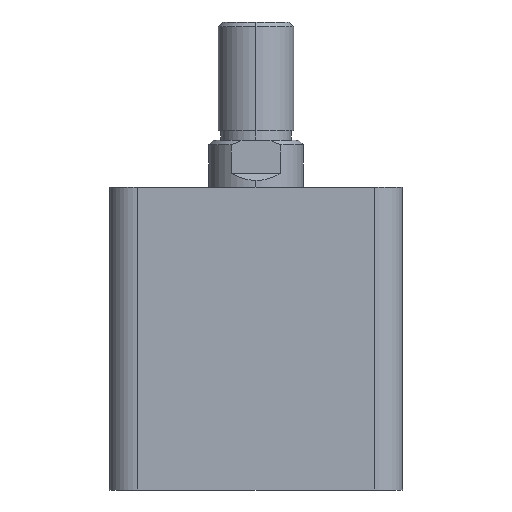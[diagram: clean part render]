
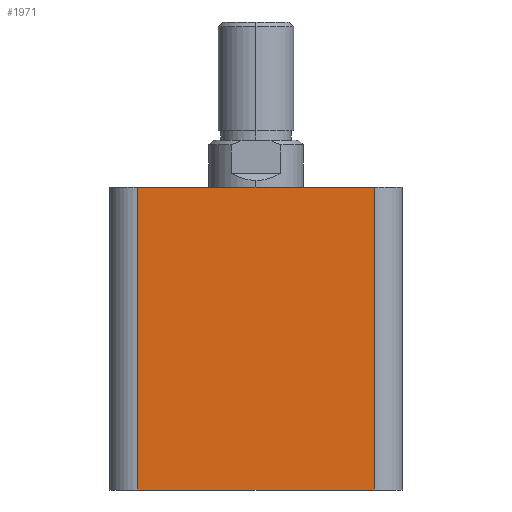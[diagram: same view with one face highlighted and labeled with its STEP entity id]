
A CAD part, left-side view. The second image highlights one B-rep face of the part: STEP entity #1971.
In plain terms, the highlighted planar face has unit normal (-1, 0, 0).
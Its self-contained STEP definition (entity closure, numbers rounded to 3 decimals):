
#147 = LINE ( 'NONE', #2027, #153 ) ;
#151 = LINE ( 'NONE', #3447, #156 ) ;
#153 = VECTOR ( 'NONE', #2023, 1000. ) ;
#156 = VECTOR ( 'NONE', #3119, 1000. ) ;
#177 = VECTOR ( 'NONE', #1843, 1000. ) ;
#183 = LINE ( 'NONE', #1837, #177 ) ;
#410 = EDGE_CURVE ( 'NONE', #4518, #4498, #2550, .T. ) ;
#454 = EDGE_CURVE ( 'NONE', #4217, #676, #183, .T. ) ;
#464 = EDGE_CURVE ( 'NONE', #676, #4498, #147, .T. ) ;
#465 = EDGE_CURVE ( 'NONE', #4518, #4217, #151, .T. ) ;
#676 = VERTEX_POINT ( 'NONE', #3945 ) ;
#894 = CARTESIAN_POINT ( 'NONE',  ( -31., 31., 64. ) ) ;
#896 = PLANE ( 'NONE',  #2145 ) ;
#899 = DIRECTION ( 'NONE',  ( 1., 0., 0. ) ) ;
#900 = DIRECTION ( 'NONE',  ( 0., 0., -1. ) ) ;
#1010 = CARTESIAN_POINT ( 'NONE',  ( -31., 25., 0. ) ) ;
#1055 = CARTESIAN_POINT ( 'NONE',  ( -31., -25., 64. ) ) ;
#1075 = CARTESIAN_POINT ( 'NONE',  ( -31., 25., 64. ) ) ;
#1618 = FACE_OUTER_BOUND ( 'NONE', #4381, .T. ) ;
#1837 = CARTESIAN_POINT ( 'NONE',  ( -31., 31., 0. ) ) ;
#1843 = DIRECTION ( 'NONE',  ( 0., -1., 0. ) ) ;
#1971 = ADVANCED_FACE ( 'NONE', ( #1618 ), #896, .F. ) ;
#2023 = DIRECTION ( 'NONE',  ( 0., 0., 1. ) ) ;
#2027 = CARTESIAN_POINT ( 'NONE',  ( -31., -25., 64. ) ) ;
#2145 = AXIS2_PLACEMENT_3D ( 'NONE', #894, #899, #900 ) ;
#2460 = CARTESIAN_POINT ( 'NONE',  ( -31., 31., 64. ) ) ;
#2466 = DIRECTION ( 'NONE',  ( 0., -1., 0. ) ) ;
#2548 = VECTOR ( 'NONE', #2466, 1000. ) ;
#2550 = LINE ( 'NONE', #2460, #2548 ) ;
#3052 = ORIENTED_EDGE ( 'NONE', *, *, #454, .T. ) ;
#3053 = ORIENTED_EDGE ( 'NONE', *, *, #464, .T. ) ;
#3054 = ORIENTED_EDGE ( 'NONE', *, *, #410, .F. ) ;
#3055 = ORIENTED_EDGE ( 'NONE', *, *, #465, .T. ) ;
#3119 = DIRECTION ( 'NONE',  ( 0., 0., -1. ) ) ;
#3447 = CARTESIAN_POINT ( 'NONE',  ( -31., 25., 64. ) ) ;
#3945 = CARTESIAN_POINT ( 'NONE',  ( -31., -25., 0. ) ) ;
#4217 = VERTEX_POINT ( 'NONE', #1010 ) ;
#4381 = EDGE_LOOP ( 'NONE', ( #3052, #3053, #3054, #3055 ) ) ;
#4498 = VERTEX_POINT ( 'NONE', #1055 ) ;
#4518 = VERTEX_POINT ( 'NONE', #1075 ) ;
